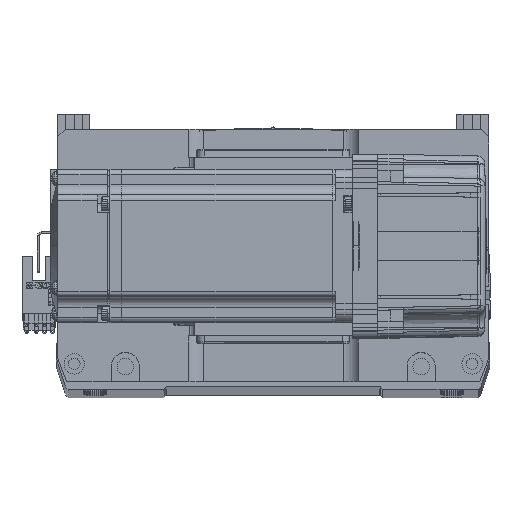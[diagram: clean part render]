
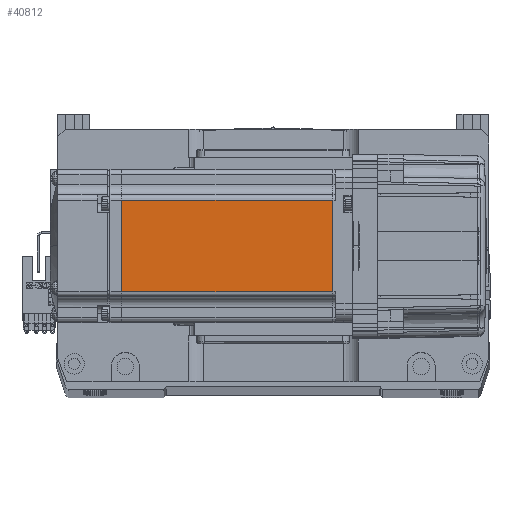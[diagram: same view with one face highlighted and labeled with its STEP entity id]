
A CAD part, top view. The second image highlights one B-rep face of the part: STEP entity #40812.
In plain terms, the highlighted planar face has unit normal (0, 0, 1).
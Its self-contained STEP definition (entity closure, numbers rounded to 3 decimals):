
#1937 = LINE ( 'NONE', #27447, #5885 ) ;
#2796 = CARTESIAN_POINT ( 'NONE',  ( -7.75, -18., 30. ) ) ;
#5150 = ORIENTED_EDGE ( 'NONE', *, *, #59437, .F. ) ;
#5244 = VERTEX_POINT ( 'NONE', #2796 ) ;
#5885 = VECTOR ( 'NONE', #63024, 1000. ) ;
#8748 = VECTOR ( 'NONE', #31667, 1000. ) ;
#8893 = EDGE_CURVE ( 'NONE', #47428, #29242, #25296, .T. ) ;
#11294 = ORIENTED_EDGE ( 'NONE', *, *, #8893, .T. ) ;
#15978 = EDGE_CURVE ( 'NONE', #47697, #5244, #1937, .T. ) ;
#16579 = AXIS2_PLACEMENT_3D ( 'NONE', #30789, #35933, #26282 ) ;
#17696 = EDGE_LOOP ( 'NONE', ( #34809, #33167, #11294, #5150 ) ) ;
#19282 = EDGE_CURVE ( 'NONE', #47697, #47428, #65454, .T. ) ;
#21301 = VECTOR ( 'NONE', #60588, 1000. ) ;
#22885 = DIRECTION ( 'NONE',  ( -1., 0., 0. ) ) ;
#25296 = LINE ( 'NONE', #56129, #21301 ) ;
#26282 = DIRECTION ( 'NONE',  ( 1., 0., 0. ) ) ;
#27447 = CARTESIAN_POINT ( 'NONE',  ( -7.75, 0., 30. ) ) ;
#29242 = VERTEX_POINT ( 'NONE', #57693 ) ;
#30789 = CARTESIAN_POINT ( 'NONE',  ( -6.5, -25., 30. ) ) ;
#31667 = DIRECTION ( 'NONE',  ( -1., 0., 0. ) ) ;
#32284 = CARTESIAN_POINT ( 'NONE',  ( -6.5, -18., 30. ) ) ;
#33167 = ORIENTED_EDGE ( 'NONE', *, *, #19282, .T. ) ;
#34809 = ORIENTED_EDGE ( 'NONE', *, *, #15978, .F. ) ;
#35933 = DIRECTION ( 'NONE',  ( 0., 0., 1. ) ) ;
#37266 = CARTESIAN_POINT ( 'NONE',  ( -6.5, 18., 30. ) ) ;
#40509 = FACE_OUTER_BOUND ( 'NONE', #17696, .T. ) ;
#40812 = ADVANCED_FACE ( 'NONE', ( #40509 ), #56954, .T. ) ;
#47428 = VERTEX_POINT ( 'NONE', #61203 ) ;
#47697 = VERTEX_POINT ( 'NONE', #64282 ) ;
#54574 = LINE ( 'NONE', #32284, #60963 ) ;
#56129 = CARTESIAN_POINT ( 'NONE',  ( -90.45, 0., 30. ) ) ;
#56954 = PLANE ( 'NONE',  #16579 ) ;
#57693 = CARTESIAN_POINT ( 'NONE',  ( -90.45, -18., 30. ) ) ;
#59437 = EDGE_CURVE ( 'NONE', #5244, #29242, #54574, .T. ) ;
#60588 = DIRECTION ( 'NONE',  ( 0., -1., 0. ) ) ;
#60963 = VECTOR ( 'NONE', #22885, 1000. ) ;
#61203 = CARTESIAN_POINT ( 'NONE',  ( -90.45, 18., 30. ) ) ;
#63024 = DIRECTION ( 'NONE',  ( 0., -1., 0. ) ) ;
#64282 = CARTESIAN_POINT ( 'NONE',  ( -7.75, 18., 30. ) ) ;
#65454 = LINE ( 'NONE', #37266, #8748 ) ;
